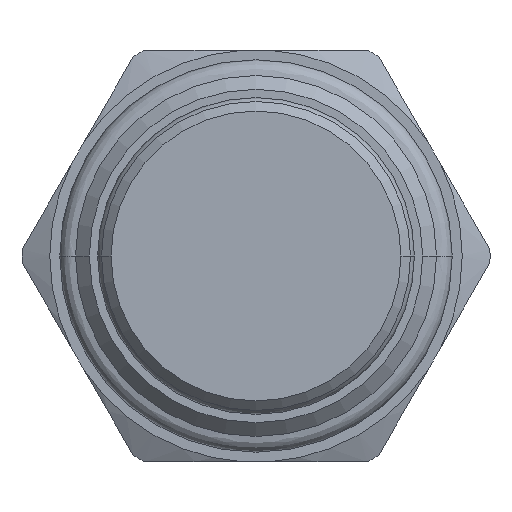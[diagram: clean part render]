
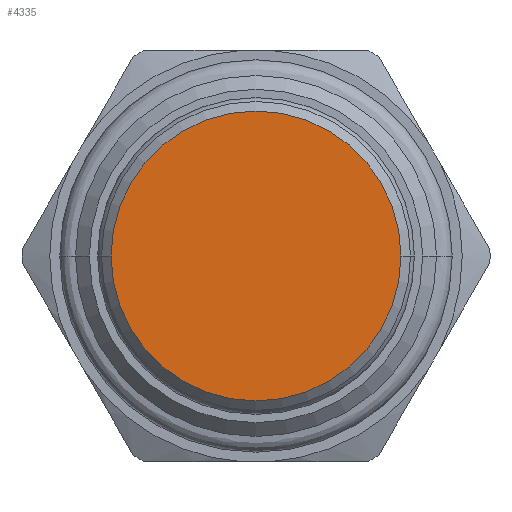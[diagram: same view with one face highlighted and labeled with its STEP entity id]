
A CAD part, front view. The second image highlights one B-rep face of the part: STEP entity #4335.
In plain terms, the highlighted planar face has unit normal (0, -1, 0).
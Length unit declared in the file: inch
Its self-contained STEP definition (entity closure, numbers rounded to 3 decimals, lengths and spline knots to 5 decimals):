
#1725=CARTESIAN_POINT('',(0.,-1.78751,0.));
#1726=DIRECTION('',(0.,1.,0.));
#1727=DIRECTION('',(1.,0.,0.));
#1728=AXIS2_PLACEMENT_3D('',#1725,#1726,#1727);
#1735=CARTESIAN_POINT('',(0.,-1.78751,0.));
#1736=DIRECTION('',(0.,1.,0.));
#1737=DIRECTION('',(-1.,0.,0.));
#1738=AXIS2_PLACEMENT_3D('',#1735,#1736,#1737);
#2099=CARTESIAN_POINT('',(0.527,-1.78751,0.));
#2100=CARTESIAN_POINT('',(-0.527,-1.78751,0.));
#2101=VERTEX_POINT('',#2099);
#2102=VERTEX_POINT('',#2100);
#4325=CARTESIAN_POINT('',(0.,-1.78751,0.));
#4326=DIRECTION('',(0.,1.,0.));
#4327=DIRECTION('',(1.,0.,0.));
#4328=AXIS2_PLACEMENT_3D('',#4325,#4326,#4327);
#4329=PLANE('',#4328);
#4330=ORIENTED_EDGE('',*,*,#4315,.T.);
#4332=ORIENTED_EDGE('',*,*,#4331,.T.);
#4333=EDGE_LOOP('',(#4330,#4332));
#4334=FACE_OUTER_BOUND('',#4333,.F.);
#4335=ADVANCED_FACE('',(#4334),#4329,.F.);
#1729=CIRCLE('',#1728,0.527);
#1739=CIRCLE('',#1738,0.527);
#4315=EDGE_CURVE('',#2101,#2102,#1729,.T.);
#4331=EDGE_CURVE('',#2102,#2101,#1739,.T.);
